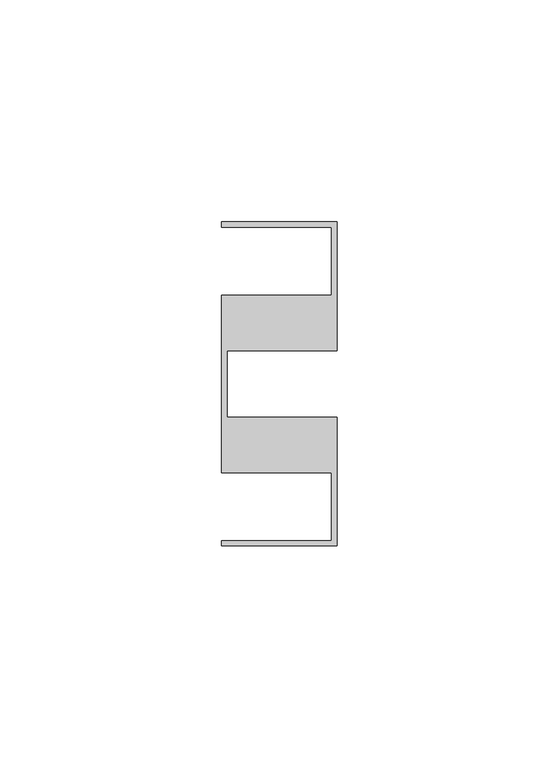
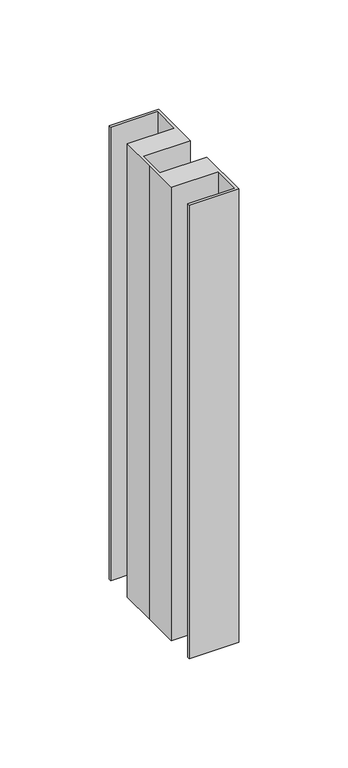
"""IFC4 building model written with IfcOpenShell, lengths in millimetres: member geometry, Прямоугольный импост : 10-AMG-2-Профиль 26Х73 Верх П."""

from ifc_helpers import new_model, si_unit, frame, origin, place, context, project, spatial, polyline, outline, extrude, source, transform, mapped, element, save


def member_5557c804(model_context):
    return source(origin(), model_context, "Body", "SweptSolid", [
        extrude(outline(polyline([(-26.0, 36.5), (0.0, 36.5), (0.0, 7.5116043), (-24.8, 7.5116043), (-24.8, 0.0), (-24.8, -7.5116043), (0.0, -7.5116043), (0.0, -36.5), (-26.0, -36.5), (-26.0, -35.3116043), (-1.2, -35.3116043), (-1.2, -20.0), (-26.0, -20.0), (-26.0, 0.0), (-26.0, 20.0), (-1.2, 20.0), (-1.2, 35.3), (-26.0, 35.3), (-26.0, 36.5)])), frame((0.0, 0.0, -253.0), z_axis=(0.0, 0.0, 1.0), x_axis=(1.0, 0.0, 0.0)), (0.0, 0.0, 1.0), 253.0),
    ])


if __name__ == "__main__":
    model = new_model("IFC4")
    model_context = context("Model", 3, world=origin())
    ifc_project = project(units=[si_unit("LENGTHUNIT", "METRE", prefix="MILLI")], contexts=[model_context])
    site = spatial("IfcSite", under=ifc_project)
    building = spatial("IfcBuilding", under=site)
    placement = place(None, origin())
    member_shape = member_5557c804(model_context)
    element("IfcMember", 1, ObjectType="Прямоугольный импост : 10-AMG-2-Профиль 26Х73 Верх П", at=placement, inside=building, context=model_context, shape_type="MappedRepresentation", body=[
        mapped(member_shape, transform((0.0, 0.0, 0.0), x_axis=(1.0, 0.0, 0.0), y_axis=(0.0, 1.0, 0.0), z_axis=(0.0, 0.0, 1.0))),
    ])
    save(model, "model.ifc")
